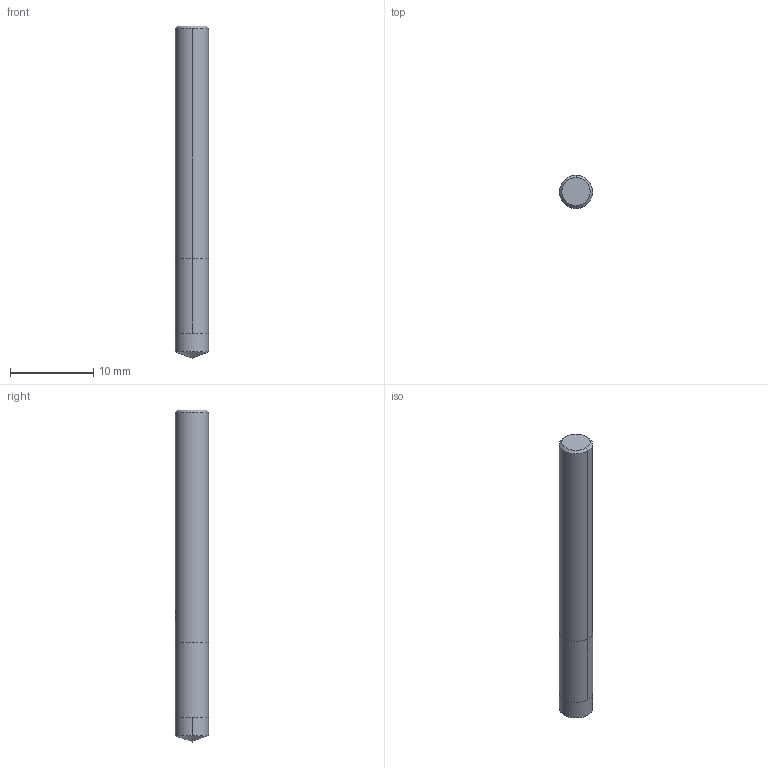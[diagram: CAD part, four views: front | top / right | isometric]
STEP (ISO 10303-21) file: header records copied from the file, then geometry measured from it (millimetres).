
FILE_DESCRIPTION(('no description'),'unknown implementation level');
FILE_NAME('soliddMqP1qMRdir1tw_0N0lFYcMXHao_1.STP',' ',('CIMSOURCE GmbH'),('CADClick - KiM GmbH - www.kimweb.de'),'unknown preprocess','ACIS','unknown authorization');
FILE_SCHEMA(('automotive_design'));
Length unit declared in the file: millimetre
Products named in the file (2): NOCUT; CUT
Bounding box: 4 x 4 x 40 mm (x, y, z)
Volume: 495.9 mm3; surface area: 542.9 mm2
Topology: 2 solids, 2 shells, 28 faces, 67 edges, 41 vertices
Faces by surface type: cylinder 14, plane 8, cone 6
Entity records: 1799 total; most frequent: CARTESIAN_POINT 356, DIRECTION 139, STYLED_ITEM 136, PRESENTATION_STYLE_ASSIGNMENT 136, COLOUR_RGB 136, ORIENTED_EDGE 130, EDGE_CURVE 65, CURVE_STYLE 65
